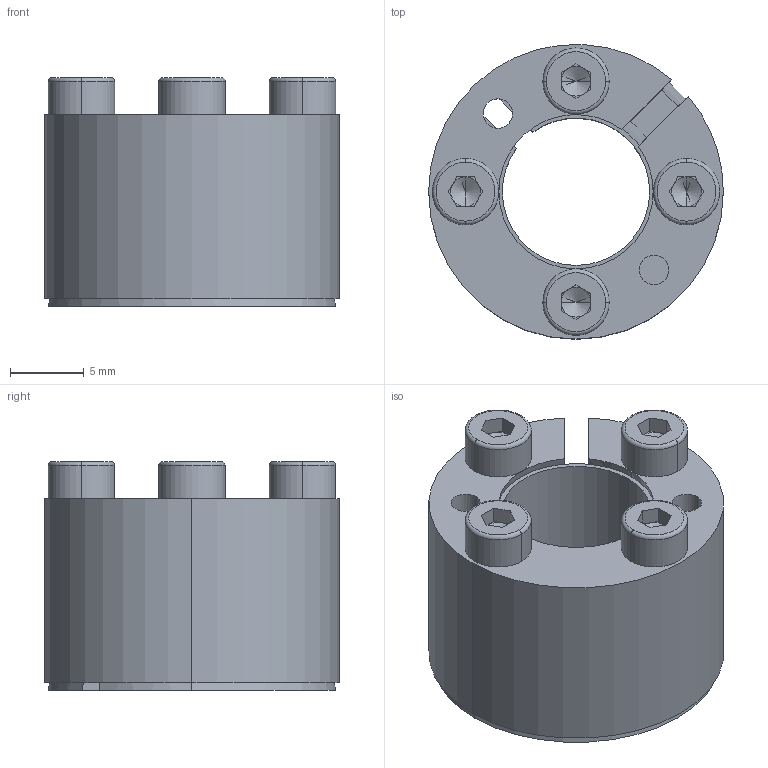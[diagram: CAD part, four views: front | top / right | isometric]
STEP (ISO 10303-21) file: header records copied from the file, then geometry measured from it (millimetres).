
FILE_DESCRIPTION (( 'STEP AP214' ), '1' );
FILE_NAME ('CONEX-K-10x20.step', '2013-04-06T13:20:21', ( 'Pc' ), ( '' ), 'SwSTEP 2.0', 'SolidWorks 2013', '' );
FILE_SCHEMA (( 'AUTOMOTIVE_DESIGN' ));
Length unit declared in the file: millimetre
Products named in the file (1): CONEX-K-10x20
Bounding box: 20 x 19.98 x 15.51 mm (x, y, z)
Volume: 2426.5 mm3; surface area: 4007.9 mm2
Topology: 6 solids, 6 shells, 162 faces, 378 edges, 228 vertices
Faces by surface type: plane 70, cylinder 48, cone 28, torus 16
Entity records: 6473 total; most frequent: DIRECTION 866, CARTESIAN_POINT 785, ORIENTED_EDGE 740, EDGE_CURVE 370, AXIS2_PLACEMENT_3D 341, VERTEX_POINT 228, EDGE_LOOP 190, LINE 184
